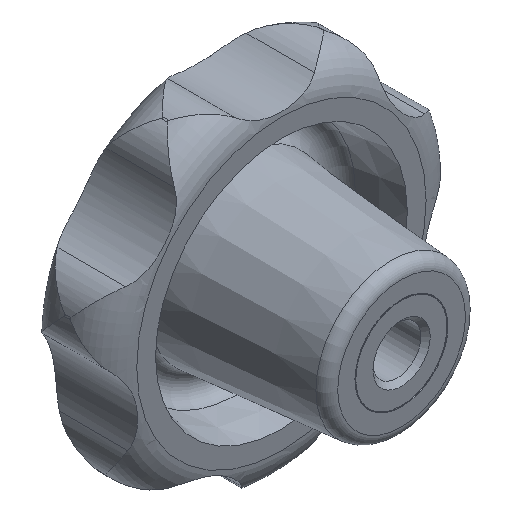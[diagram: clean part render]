
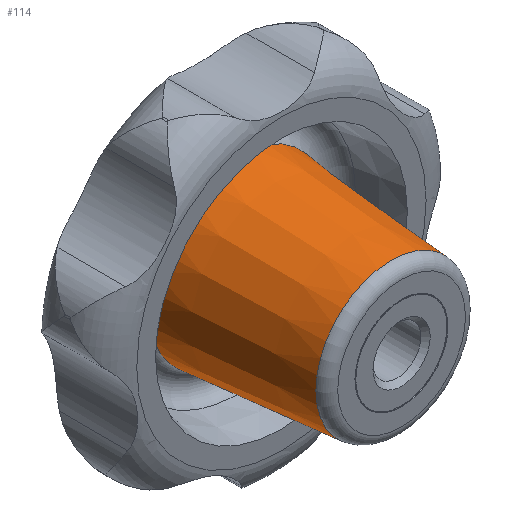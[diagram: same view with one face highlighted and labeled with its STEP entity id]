
A CAD part, isometric view. The second image highlights one B-rep face of the part: STEP entity #114.
In plain terms, the highlighted conical face has half-angle 5 degrees and reference radius 15.503 mm.
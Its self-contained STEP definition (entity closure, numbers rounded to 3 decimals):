
#114 = ADVANCED_FACE( '', ( #215, #216 ), #217, .T. );
#215 = FACE_BOUND( '', #330, .T. );
#216 = FACE_OUTER_BOUND( '', #331, .T. );
#217 = CONICAL_SURFACE( '', #332, 15.503, 0.087 );
#330 = EDGE_LOOP( '', ( #673 ) );
#331 = EDGE_LOOP( '', ( #674 ) );
#332 = AXIS2_PLACEMENT_3D( '', #675, #676, #677 );
#673 = ORIENTED_EDGE( '', *, *, #857, .F. );
#674 = ORIENTED_EDGE( '', *, *, #858, .T. );
#675 = CARTESIAN_POINT( '', ( 0., 28.732, 0. ) );
#676 = DIRECTION( '', ( 0., 1., 0. ) );
#677 = DIRECTION( '', ( 0., 0., 1. ) );
#857 = EDGE_CURVE( '', #1054, #1054, #1055, .T. );
#858 = EDGE_CURVE( '', #1056, #1056, #1057, .T. );
#1054 = VERTEX_POINT( '', #2134 );
#1055 = CIRCLE( '', #2135, 13.149 );
#1056 = VERTEX_POINT( '', #2136 );
#1057 = CIRCLE( '', #2137, 15.503 );
#2134 = CARTESIAN_POINT( '', ( 0., 1.826, -13.149 ) );
#2135 = AXIS2_PLACEMENT_3D( '', #2263, #2264, #2265 );
#2136 = CARTESIAN_POINT( '', ( 0., 28.732, -15.503 ) );
#2137 = AXIS2_PLACEMENT_3D( '', #2266, #2267, #2268 );
#2263 = CARTESIAN_POINT( '', ( 0., 1.826, 0. ) );
#2264 = DIRECTION( '', ( 0., -1., 0. ) );
#2265 = DIRECTION( '', ( 0., 0., -1. ) );
#2266 = CARTESIAN_POINT( '', ( 0., 28.732, 0. ) );
#2267 = DIRECTION( '', ( 0., -1., 0. ) );
#2268 = DIRECTION( '', ( 0., 0., -1. ) );
